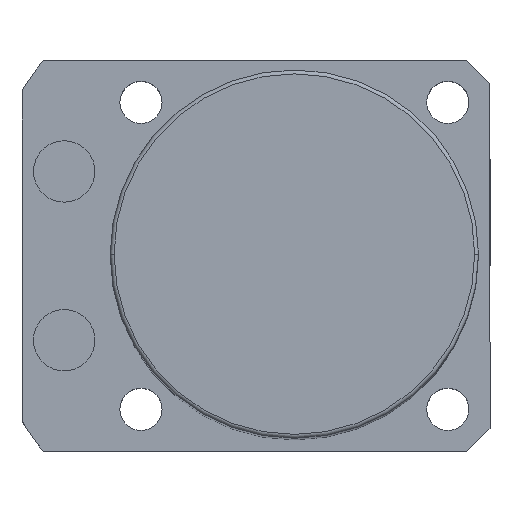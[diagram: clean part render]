
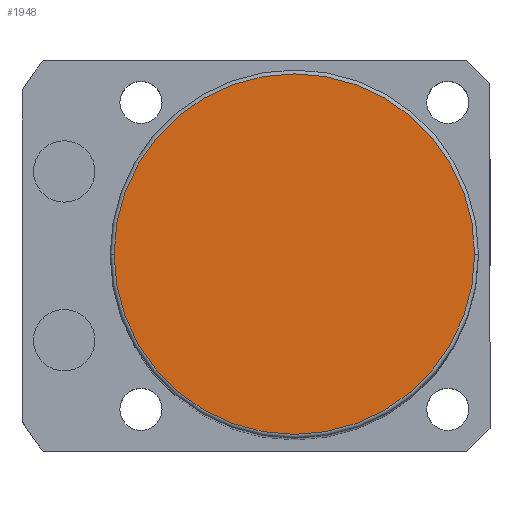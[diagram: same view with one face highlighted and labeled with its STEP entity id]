
A CAD part, top view. The second image highlights one B-rep face of the part: STEP entity #1948.
In plain terms, the highlighted planar face has unit normal (0, 0, 1).
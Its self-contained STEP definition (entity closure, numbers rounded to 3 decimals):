
#375 = DIRECTION ( 'NONE',  ( 0., 0., 1. ) ) ;
#562 = ORIENTED_EDGE ( 'NONE', *, *, #1387, .T. ) ;
#593 = CARTESIAN_POINT ( 'NONE',  ( 0., 0., 141. ) ) ;
#610 = DIRECTION ( 'NONE',  ( 0., 0., 1. ) ) ;
#685 = FACE_OUTER_BOUND ( 'NONE', #1806, .T. ) ;
#779 = DIRECTION ( 'NONE',  ( 1., 0., 0. ) ) ;
#906 = CARTESIAN_POINT ( 'NONE',  ( 0., 0., 141. ) ) ;
#993 = AXIS2_PLACEMENT_3D ( 'NONE', #1160, #2312, #2262 ) ;
#997 = ORIENTED_EDGE ( 'NONE', *, *, #2190, .T. ) ;
#1079 = DIRECTION ( 'NONE',  ( 1., 0., 0. ) ) ;
#1160 = CARTESIAN_POINT ( 'NONE',  ( 0., 0., 141. ) ) ;
#1215 = VERTEX_POINT ( 'NONE', #1274 ) ;
#1274 = CARTESIAN_POINT ( 'NONE',  ( -23.5, 0., 141. ) ) ;
#1387 = EDGE_CURVE ( 'NONE', #1215, #1511, #2131, .T. ) ;
#1511 = VERTEX_POINT ( 'NONE', #2303 ) ;
#1806 = EDGE_LOOP ( 'NONE', ( #997, #562 ) ) ;
#1817 = CIRCLE ( 'NONE', #993, 23.5 ) ;
#1948 = ADVANCED_FACE ( 'NONE', ( #685 ), #2363, .T. ) ;
#1987 = AXIS2_PLACEMENT_3D ( 'NONE', #593, #610, #779 ) ;
#2131 = CIRCLE ( 'NONE', #1987, 23.5 ) ;
#2190 = EDGE_CURVE ( 'NONE', #1511, #1215, #1817, .T. ) ;
#2195 = AXIS2_PLACEMENT_3D ( 'NONE', #906, #375, #1079 ) ;
#2262 = DIRECTION ( 'NONE',  ( 1., 0., 0. ) ) ;
#2303 = CARTESIAN_POINT ( 'NONE',  ( 23.5, 0., 141. ) ) ;
#2312 = DIRECTION ( 'NONE',  ( 0., 0., 1. ) ) ;
#2363 = PLANE ( 'NONE',  #2195 ) ;
